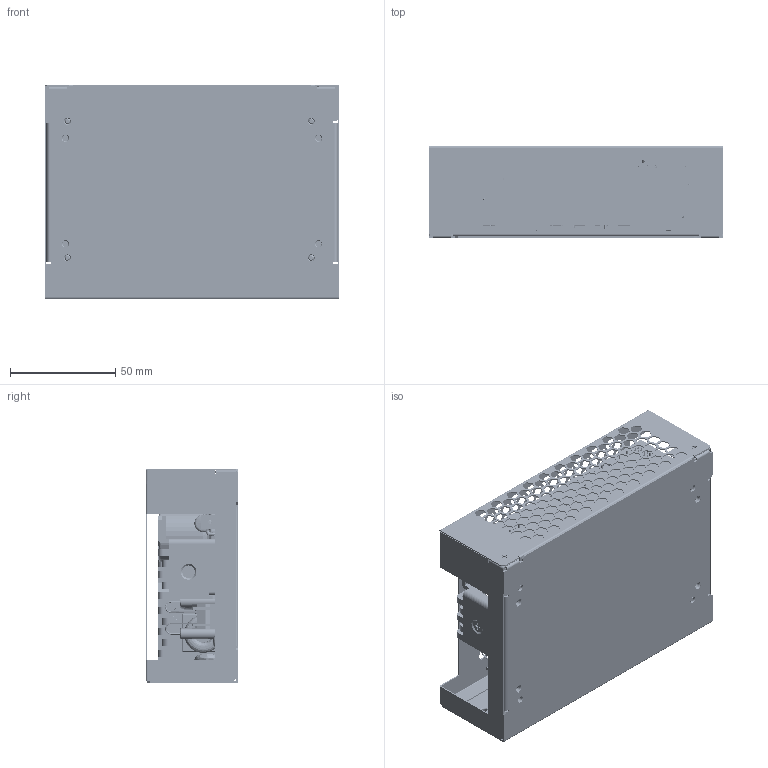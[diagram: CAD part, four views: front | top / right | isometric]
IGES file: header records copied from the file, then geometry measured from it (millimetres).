
Start section: SolidWorks IGES file using analytic representation for surfaces
Global section: file name: C:\PROJ\GCS265 W COVERs\SOLID WORKS REV A2\GCS265-C\GCS265-C.IGS; native system: SolidWorks 2015; preprocessor: SolidWorks 2015; author: jpatel; date: 150421.130331; units: inch
Bounding box: 139.7 x 43.66 x 101.83 mm (x, y, z)
Surface area: 204182.3 mm2 (no closed solid volume)
Topology: 0 solids, 0 shells, 7211 faces, 63379 edges, 63303 vertices
Faces by surface type: bspline 5369, revolution 1842
